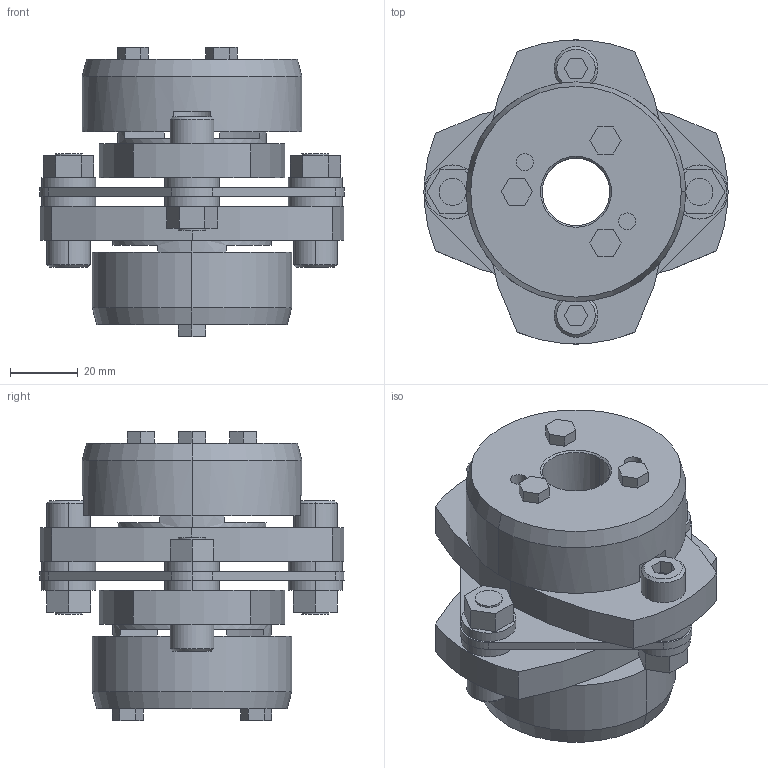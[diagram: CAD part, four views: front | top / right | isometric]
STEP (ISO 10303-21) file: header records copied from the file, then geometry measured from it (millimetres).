
FILE_DESCRIPTION((''),'2;1');
FILE_NAME('LCS-90T7-20×24.stp','2015-11-01T20:26:36',(''),(''),'AutoCAD STEP 2000i','AutoCAD 2000i',', , ');
FILE_SCHEMA(('CONFIG_CONTROL_DESIGN'));
Length unit declared in the file: millimetre
Products named in the file (9): LCS-90T7-20×25; 忣兜1; LC90T7-T020; LC90T7-T025; LC90T7-T019-1; LC90T7-T019; LC90-B019-1; LC90-B019; LCS90-ITA
Assembly tree (8 placements, depth 2):
  LCS-90T7-20×25
    忣兜1
    LC90T7-T020
    LC90T7-T025
    LC90T7-T019-1
    LC90T7-T019
    LC90-B019-1
    LC90-B019
    LCS90-ITA
Bounding box: 90 x 89.94 x 85.5 mm (x, y, z)
Volume: 215171.6 mm3; surface area: 53677.4 mm2
Topology: 1 solids, 1 shells, 229 faces, 562 edges, 368 vertices
Faces by surface type: plane 127, cylinder 82, cone 20
Entity records: 7023 total; most frequent: DIRECTION 1242, CARTESIAN_POINT 1168, ORIENTED_EDGE 1124, EDGE_CURVE 562, AXIS2_PLACEMENT_3D 442, VERTEX_POINT 368, VECTOR 358, LINE 358
